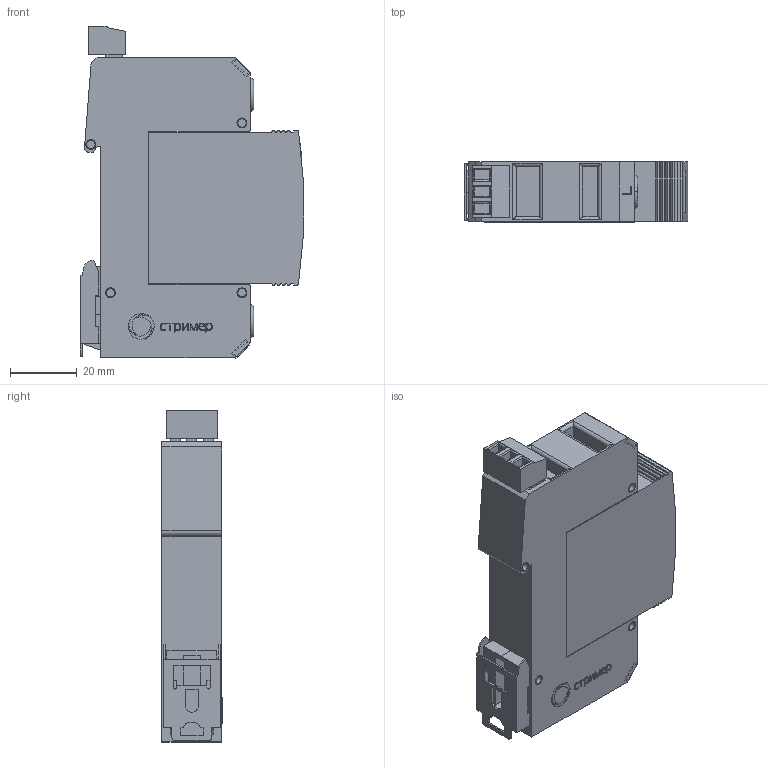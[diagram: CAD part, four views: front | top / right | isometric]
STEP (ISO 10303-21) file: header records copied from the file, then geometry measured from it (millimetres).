
FILE_DESCRIPTION(('TFLEX Exchange Step'),'2;1');
FILE_NAME('X2\041004400442\X0\.111_105.stp', '2022-07-15T15:51:46+03:00',('Pavel Oborin'),('Unknown organisation'),'TFLEX Exchange 2019.2','T-FLEX CAD','Unknown authorisation');
FILE_SCHEMA( ('AUTOMOTIVE_DESIGN { 1 0 10303 214 1 1 1 1 }') );
Length unit declared in the file: millimetre
Products named in the file (9): 0; Сигнализация:4; Сигнализация; буква N; Буква L; Планка; ВНЕШНИЙ МОДУЛЬ 18 без ушек; Корпус 18 без ушей; Арт.111_105
Assembly tree (10 placements, depth 3):
  Арт.111_105
    0
    Сигнализация
      Сигнализация:4  x3
    буква N
    Буква L
    Планка
    ВНЕШНИЙ МОДУЛЬ 18 без ушек
    Корпус 18 без ушей
Bounding box: 66.98 x 18.1 x 99.68 mm (x, y, z)
Volume: 87751.1 mm3; surface area: 25639.4 mm2
Topology: 33 solids, 33 shells, 539 faces, 1308 edges, 856 vertices
Faces by surface type: plane 359, cylinder 139, bspline 31, torus 7, cone 3
Full cylindrical faces by diameter (mm): 1.6 x3, 3 x3
Entity records: 18570 total; most frequent: CARTESIAN_POINT 6029, ORIENTED_EDGE 2520, DIRECTION 2473, EDGE_CURVE 1260, VECTOR 949, LINE 949, VERTEX_POINT 824, AXIS2_PLACEMENT_3D 762
